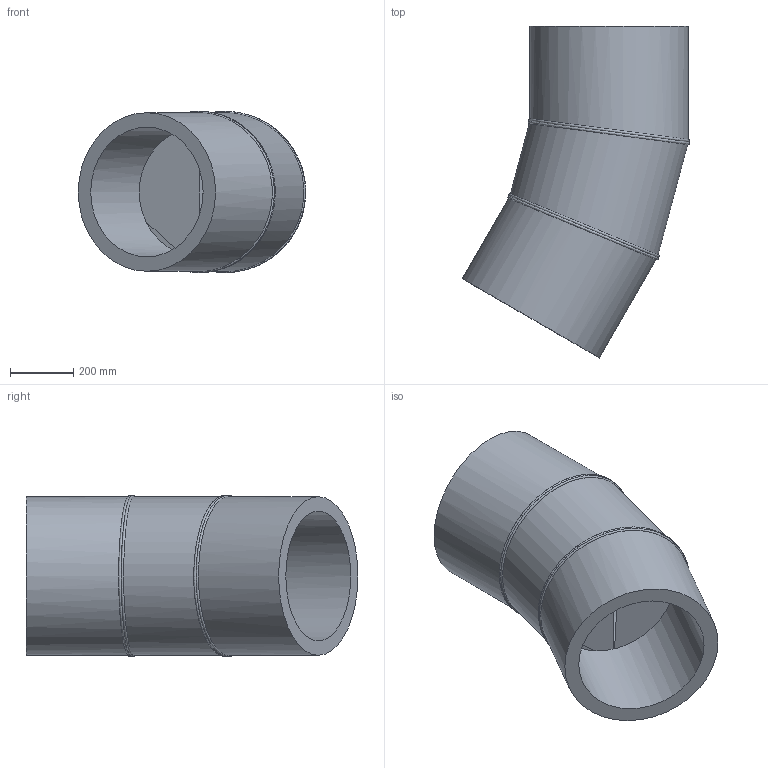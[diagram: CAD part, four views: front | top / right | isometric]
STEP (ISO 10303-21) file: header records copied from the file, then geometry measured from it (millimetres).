
FILE_DESCRIPTION(/* description */ ('Unknown'),/* implementation_level */ '2;1');
FILE_NAME(/* name */ 'Curva 30° a settore DE500 SDR11',/* time_stamp */ '2022-07-26T08:54:58+02:00',/* author */ ('Unknown'),/* organization */ ('Unknown'),/* preprocessor_version */ 'ST-DEVELOPER v18.102',/* originating_system */ 'Solid Edge',/* authorisation */ 'Unknown');
FILE_SCHEMA (('AUTOMOTIVE_DESIGN {1 0 10303 214 3 1 1}'));
Length unit declared in the file: millimetre
Products named in the file (3): Curva 30° a settore DE500 SDR11; Tubo x Gomito 30° DE500 SDR11 - 1; Tubo x Gomito 30° DE500 SDR11 - 2
Assembly tree (3 placements, depth 2):
  Curva 30° a settore DE500 SDR11
    Tubo x Gomito 30° DE500 SDR11 - 1  x2
    Tubo x Gomito 30° DE500 SDR11 - 2
Bounding box: 717.4 x 1046.46 x 507.98 mm (x, y, z)
Volume: 63487456.2 mm3; surface area: 3210567.2 mm2
Topology: 3 solids, 3 shells, 24 faces, 51 edges, 33 vertices
Faces by surface type: cylinder 14, plane 6, bspline 4
Full cylindrical faces by diameter (mm): 409.2 x3, 500 x3
Entity records: 2468 total; most frequent: CARTESIAN_POINT 2073, DIRECTION 70, ORIENTED_EDGE 52, AXIS2_PLACEMENT_3D 35, EDGE_LOOP 28, FACE_BOUND 28, EDGE_CURVE 26, VERTEX_POINT 20
